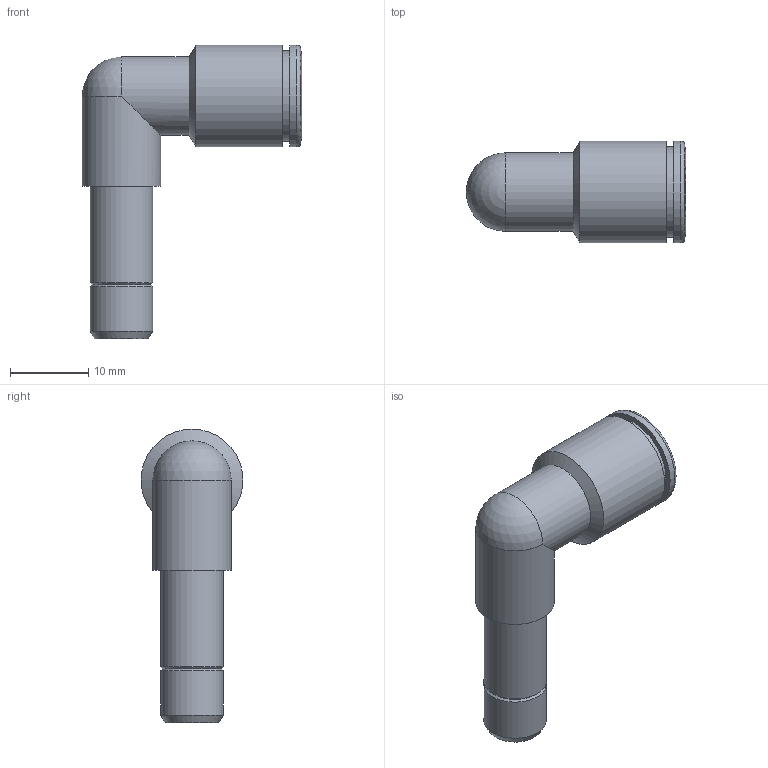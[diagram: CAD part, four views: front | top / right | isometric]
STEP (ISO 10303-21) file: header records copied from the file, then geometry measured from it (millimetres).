
FILE_DESCRIPTION(('Bauteilbeschreibung','HiCAD-Model','HiCAD-STEP-TRANSLATION','Bauteilbeschreibung'),'2;1');
FILE_NAME('B:/ABGLEICH/ZEICHNUNGEN/STEP FÜR INTERNET/STEP/IPSO 047/204704_IPSO_047_8.STP','2012-03-16T14:10:23+00:00',('Konstrukteur'),('Konstrukteur Firma GmbH'),' HiCAD neXt 2008, Step 3.1.1401.2J ','HiCAD neXt 2008','confidential');
FILE_SCHEMA(('AUTOMOTIVE_DESIGN { 1 2 10303 214 0 1 1 1 }'));
Length unit declared in the file: millimetre
Products named in the file (3): A04704_IPSO_047_8; R204704_N1; DR8_1_NEU
Assembly tree (2 placements, depth 2):
  A04704_IPSO_047_8
    R204704_N1
    DR8_1_NEU
Bounding box: 28 x 13 x 37.5 mm (x, y, z)
Volume: 2143.3 mm3; surface area: 3601.9 mm2
Topology: 2 solids, 2 shells, 37 faces, 73 edges, 42 vertices
Faces by surface type: cylinder 14, cone 14, plane 7, sphere 1, torus 1
Full cylindrical faces by diameter (mm): 6 x1, 7 x1, 8 x2, 8.1 x1, 8.2 x1, 10 x2, 10.1 x1, 11 x1, 11.5 x1, 11.6 x1, 13 x2
Entity records: 2669 total; most frequent: CARTESIAN_POINT 1756, DIRECTION 156, ORIENTED_EDGE 82, AXIS2_PLACEMENT_3D 78, EDGE_LOOP 71, EDGE_CURVE 41, COLOUR_RGB 39, PRESENTATION_STYLE_ASSIGNMENT 39
